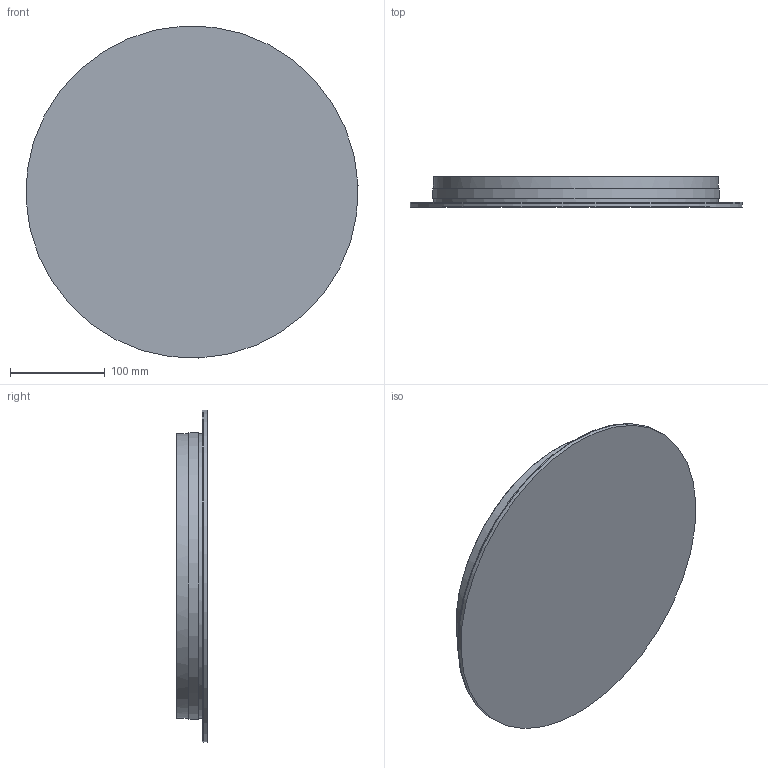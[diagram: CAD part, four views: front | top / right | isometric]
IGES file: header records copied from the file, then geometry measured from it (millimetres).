
Start section: SolidWorks IGES file using analytic representation for surfaces
Global section: file name: X:\PRODUKT\Modele 3D_WWW\_KOLEKCJE WWW\RING-LED\RING-LED-L-MIRROR-10278\RING-LED-L-MIRROR-10278.IGS; native system: SolidWorks 2021; preprocessor: SolidWorks 2021; author: gabriela.tworek; date: 221026.101858; units: millimetre
Bounding box: 349.7 x 32 x 349.7 mm (x, y, z)
Surface area: 576443.1 mm2 (no closed solid volume)
Topology: 0 solids, 0 shells, 15 faces, 39 edges, 36 vertices
Faces by surface type: bspline 10, revolution 5
